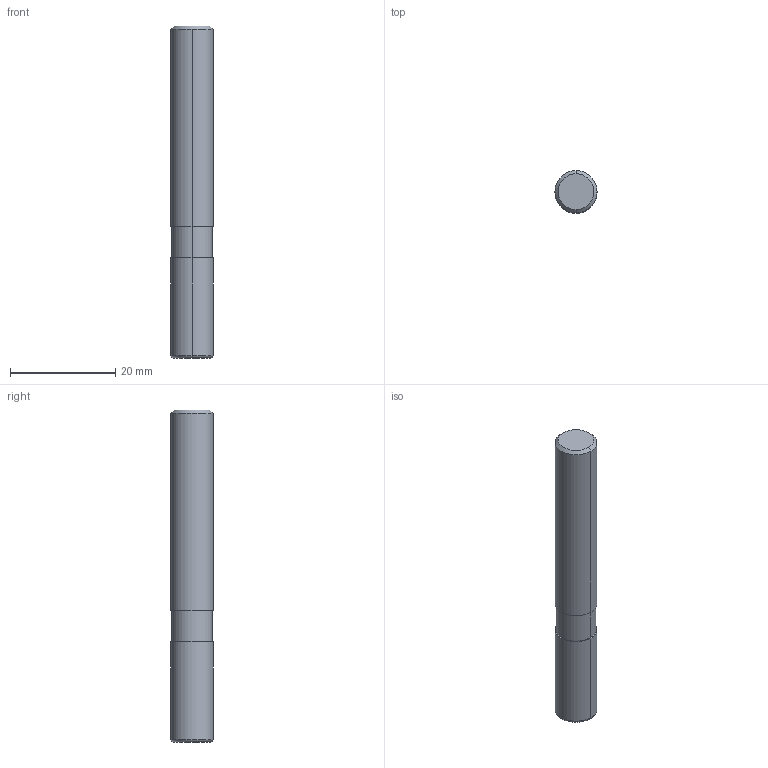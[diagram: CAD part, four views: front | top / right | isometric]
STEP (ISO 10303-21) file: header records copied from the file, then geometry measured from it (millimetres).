
FILE_DESCRIPTION((''),'2;1');
FILE_NAME('DIN4003_82_HEURO','2019-04-10T16:23:32',('automd'),(''),'CREO PARAMETRIC BY PTC INC, 2018400','CREO PARAMETRIC BY PTC INC, 2018400','');
FILE_SCHEMA(('AUTOMOTIVE_DESIGN { 1 0 10303 214 1 1 1 1 }'));
Length unit declared in the file: millimetre
Products named in the file (1): DIN4003_82_HEURO
Bounding box: 8 x 8 x 63 mm (x, y, z)
Volume: 3138.9 mm3; surface area: 1670.8 mm2
Topology: 1 solids, 1 shells, 14 faces, 29 edges, 20 vertices
Faces by surface type: bspline 14
Entity records: 899 total; most frequent: CARTESIAN_POINT 353, DIRECTION 79, ORIENTED_EDGE 52, AXIS2_PLACEMENT_3D 31, PRESENTATION_STYLE_ASSIGNMENT 27, STYLED_ITEM 27, EDGE_CURVE 26, CIRCLE 19
